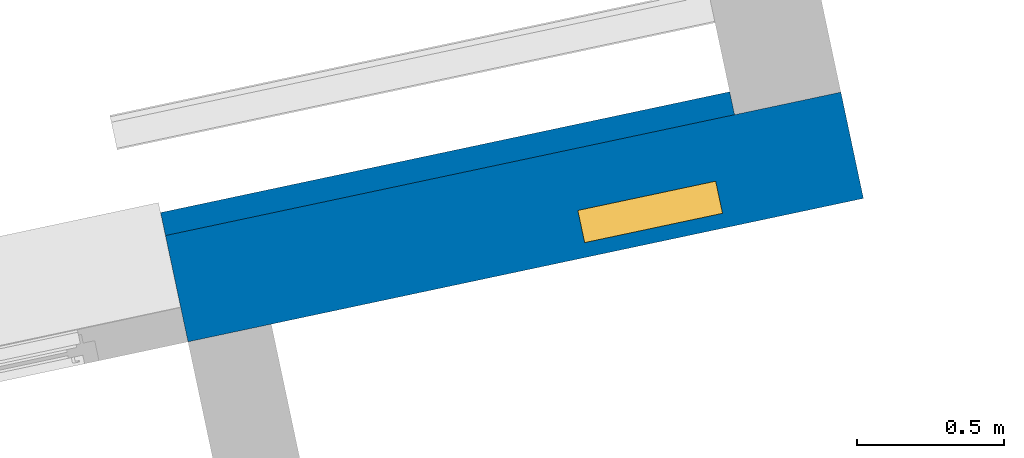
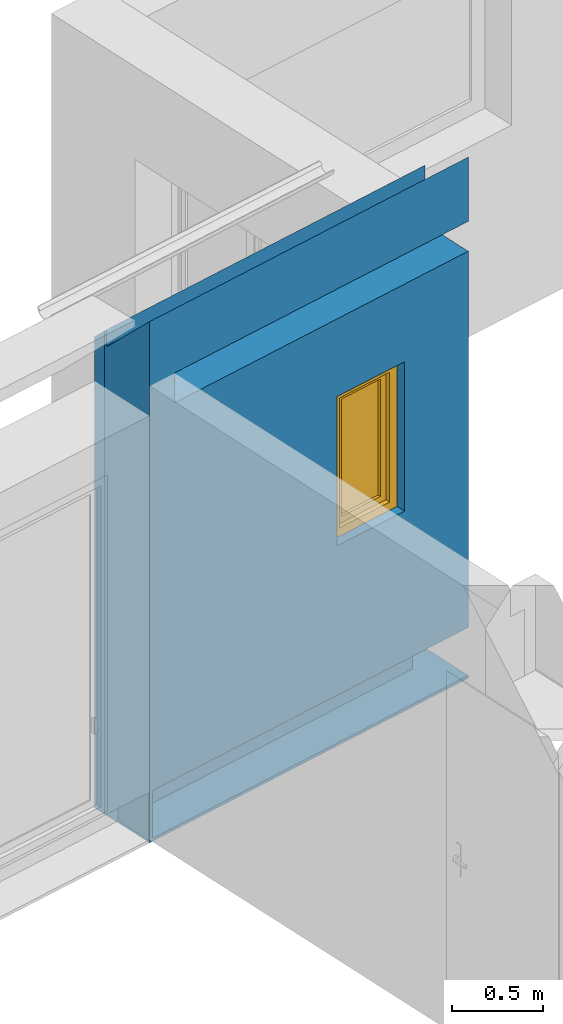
"""IFC2X3 building model written with IfcOpenShell, lengths in centimetres."""

from ifc_helpers import new_model, entity, si_unit, converted_unit, derived_unit, direction, frame, frame_2d, origin, origin_2d_with_axis, place, context, subcontext, project, spatial, polyline, rectangle, outline, extrude, clip, bounded_halfspace, faceted_brep, source, transform, mapped, material, material_list, layer, layer_set, layer_usage, type_object, type_shapes, element, fill, save


model = new_model("IFC2X3")

# Units and contexts
model_context = context("Model", 3, precision=0.001, world=origin(), true_north=direction((6.12303176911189e-17, 1.0)))
body_context = subcontext(model_context, "Body", "Model", "MODEL_VIEW")
ifc_project = project(units=[si_unit("LENGTHUNIT", "METRE", prefix="CENTI"), si_unit("AREAUNIT", "SQUARE_METRE"), si_unit("VOLUMEUNIT", "CUBIC_METRE"), converted_unit("PLANEANGLEUNIT", "DEGREE", entity("IfcRatioMeasure", 0.0174532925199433), si_unit("PLANEANGLEUNIT", "RADIAN"), dimensions=[0, 0, 0, 0, 0, 0, 0]), si_unit("MASSUNIT", "GRAM", prefix="KILO"), derived_unit("MASSDENSITYUNIT", [(si_unit("MASSUNIT", "GRAM", prefix="KILO"), 1), (si_unit("LENGTHUNIT", "METRE"), -3)]), derived_unit("IONCONCENTRATIONUNIT", [(si_unit("MASSUNIT", "GRAM", prefix="KILO"), 1), (si_unit("LENGTHUNIT", "METRE"), -3)]), derived_unit("MOMENTOFINERTIAUNIT", [(si_unit("LENGTHUNIT", "METRE"), 4)]), si_unit("TIMEUNIT", "SECOND"), si_unit("FREQUENCYUNIT", "HERTZ"), si_unit("THERMODYNAMICTEMPERATUREUNIT", "DEGREE_CELSIUS"), derived_unit("THERMALTRANSMITTANCEUNIT", [(si_unit("MASSUNIT", "GRAM", prefix="KILO"), 1), (si_unit("THERMODYNAMICTEMPERATUREUNIT", "KELVIN"), -1), (si_unit("TIMEUNIT", "SECOND"), -3)]), derived_unit("THERMALCONDUCTANCEUNIT", [(si_unit("MASSUNIT", "GRAM", prefix="KILO"), 1), (si_unit("THERMODYNAMICTEMPERATUREUNIT", "KELVIN"), -1), (si_unit("TIMEUNIT", "SECOND"), -3), (si_unit("LENGTHUNIT", "METRE"), 1)]), derived_unit("VOLUMETRICFLOWRATEUNIT", [(si_unit("LENGTHUNIT", "METRE"), 3), (si_unit("TIMEUNIT", "SECOND"), -1)]), derived_unit("MASSFLOWRATEUNIT", [(si_unit("MASSUNIT", "GRAM", prefix="KILO"), 1), (si_unit("TIMEUNIT", "SECOND"), -1)]), derived_unit("ROTATIONALFREQUENCYUNIT", [(si_unit("TIMEUNIT", "SECOND"), -1)]), si_unit("ELECTRICCURRENTUNIT", "AMPERE"), si_unit("ELECTRICVOLTAGEUNIT", "VOLT"), si_unit("POWERUNIT", "WATT"), si_unit("FORCEUNIT", "NEWTON", prefix="KILO"), si_unit("ILLUMINANCEUNIT", "LUX"), si_unit("LUMINOUSFLUXUNIT", "LUMEN"), si_unit("LUMINOUSINTENSITYUNIT", "CANDELA"), derived_unit("USERDEFINED", [(si_unit("MASSUNIT", "GRAM", prefix="KILO"), -1), (si_unit("LENGTHUNIT", "METRE"), -2), (si_unit("TIMEUNIT", "SECOND"), 3), (si_unit("LUMINOUSFLUXUNIT", "LUMEN"), 1)]), derived_unit("USERDEFINED", [(si_unit("MASSUNIT", "GRAM", prefix="KILO"), 1), (si_unit("TIMEUNIT", "SECOND"), -3), (si_unit("LENGTHUNIT", "METRE"), 3), (si_unit("ELECTRICCURRENTUNIT", "AMPERE"), -2)]), derived_unit("SOUNDPOWERUNIT", [(si_unit("MASSUNIT", "GRAM", prefix="KILO"), 1), (si_unit("TIMEUNIT", "SECOND"), -3), (si_unit("LENGTHUNIT", "METRE"), 2)]), derived_unit("SOUNDPRESSUREUNIT", [(si_unit("MASSUNIT", "GRAM", prefix="KILO"), 1), (si_unit("LENGTHUNIT", "METRE"), -1), (si_unit("TIMEUNIT", "SECOND"), -2)]), derived_unit("LINEARVELOCITYUNIT", [(si_unit("LENGTHUNIT", "METRE"), 1), (si_unit("TIMEUNIT", "SECOND"), -1)]), si_unit("PRESSUREUNIT", "PASCAL"), derived_unit("USERDEFINED", [(si_unit("MASSUNIT", "GRAM", prefix="KILO"), 1), (si_unit("LENGTHUNIT", "METRE"), -2), (si_unit("TIMEUNIT", "SECOND"), -2)]), derived_unit("LINEARFORCEUNIT", [(si_unit("MASSUNIT", "GRAM", prefix="KILO"), 1), (si_unit("TIMEUNIT", "SECOND"), -2)]), derived_unit("PLANARFORCEUNIT", [(si_unit("MASSUNIT", "GRAM", prefix="KILO"), 1), (si_unit("LENGTHUNIT", "METRE"), -1), (si_unit("TIMEUNIT", "SECOND"), -2)]), derived_unit("SPECIFICHEATCAPACITYUNIT", [(si_unit("THERMODYNAMICTEMPERATUREUNIT", "KELVIN"), -1), (si_unit("LENGTHUNIT", "METRE"), 2), (si_unit("TIMEUNIT", "SECOND"), -2)]), derived_unit("HEATINGVALUEUNIT", [(si_unit("LENGTHUNIT", "METRE"), 2), (si_unit("TIMEUNIT", "SECOND"), -2)]), derived_unit("VAPORPERMEABILITYUNIT", [(si_unit("LENGTHUNIT", "METRE"), -1), (si_unit("TIMEUNIT", "SECOND"), 1)]), derived_unit("DYNAMICVISCOSITYUNIT", [(si_unit("MASSUNIT", "GRAM", prefix="KILO"), 1), (si_unit("TIMEUNIT", "SECOND"), -1), (si_unit("LENGTHUNIT", "METRE"), -1)]), derived_unit("THERMALEXPANSIONCOEFFICIENTUNIT", [(si_unit("THERMODYNAMICTEMPERATUREUNIT", "KELVIN"), -1)]), derived_unit("MODULUSOFELASTICITYUNIT", [(si_unit("MASSUNIT", "GRAM", prefix="KILO"), 1), (si_unit("LENGTHUNIT", "METRE"), -1), (si_unit("TIMEUNIT", "SECOND"), -2)]), derived_unit("ISOTHERMALMOISTURECAPACITYUNIT", [(si_unit("LENGTHUNIT", "METRE"), 3), (si_unit("MASSUNIT", "GRAM", prefix="KILO"), -1)]), derived_unit("MOISTUREDIFFUSIVITYUNIT", [(si_unit("TIMEUNIT", "SECOND"), -1), (si_unit("LENGTHUNIT", "METRE"), 2)])], contexts=[model_context])

# Site, building, storey
site_placement = place(None, frame((14083.8920177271, -6853.25409548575, 6900.0), z_axis=(0.0, 0.0, 1.0), x_axis=(0.978188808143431, 0.207717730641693, 0.0)))
site = spatial("IfcSite", under=ifc_project, at=site_placement, Name="Surface", CompositionType="ELEMENT")
building_placement = place(site_placement, origin())
building = spatial("IfcBuilding", under=site, at=building_placement, CompositionType="ELEMENT")
storey_1_placement = place(building_placement, frame((0.0, 0.0, -17.0)))
storey_1 = spatial("IfcBuildingStorey", under=building, at=storey_1_placement, Name="Rez de chaussée (SD)", CompositionType="ELEMENT", Elevation=-16.9999999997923)

# Wall, openings
ifc_material_1 = material(Name="__ ENDUIT_Blanc")
ifc_layer_1 = layer(ifc_material_1, 2.0)
ifc_material_2 = material(Name="__ BETON_parpaings")
ifc_layer_2 = layer(ifc_material_2, 20.0)
ifc_material_3 = material(Name="__ ISOLANT (pat 1)")
ifc_layer_3 = layer(ifc_material_3, 13.0)
ifc_layer_4 = layer(ifc_material_1, 2.0)
ifc_layer_set_1 = layer_set([ifc_layer_1, ifc_layer_2, ifc_layer_3, ifc_layer_4], Name="Mur de base:*BRIQUE 37 (20 +INT 13+2 + EXT 2) (Iso+BA13)(enduit)")
ifc_layer_usage_1 = layer_usage(ifc_layer_set_1, "AXIS2", "NEGATIVE", 18.5)
wall_type_1 = type_object("IfcWallType", Name="Mur de base:*BRIQUE 37 (20 +INT 13+2 + EXT 2) (Iso+BA13)(enduit)", PredefinedType="STANDARD", material=ifc_layer_set_1)
wall_1_placement = place(storey_1_placement, frame((-7736.9551432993, 15432.4391445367, 0.0)))
wall_1 = element("IfcWallStandardCase", 1, at=wall_1_placement, inside=storey_1, type_object=wall_type_1, material=ifc_layer_usage_1, Name="Mur de base:*BRIQUE 37 (20 +INT 13+2 + EXT 2) (Iso+BA13)(enduit)", ObjectType="Mur de base:*BRIQUE 37 (20 +INT 13+2 + EXT 2) (Iso+BA13)(enduit)", context=body_context, shape_type="Clipping", body=[
    clip(clip(clip(extrude(rectangle(XDim=235.157995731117, YDim=37.0000000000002, at=frame_2d((117.578997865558, -8.66862137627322e-13), x_axis=(-1.0, 0.0))), origin(), (0.0, 0.0, 1.0), 348.999999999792), bounded_halfspace(frame((0.0, -18.500000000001, 349.0), z_axis=(0.0, 0.707106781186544, 0.707106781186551), x_axis=(-1.0, 0.0, 0.0)), False, frame((0.0, -18.500000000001, 349.0)), polyline([(0.0, 0.0), (235.157995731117, 0.0), (235.157995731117, 34.674098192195), (0.0, 34.674098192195), (0.0, 0.0)]))), bounded_halfspace(frame((235.157995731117, 16.8526181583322, 314.325901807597), z_axis=(0.0, 0.0, -1.0), x_axis=(-1.0, 0.0, 0.0)), True, frame((235.157995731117, 16.8526181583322, 314.325901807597)), polyline([(0.0, 0.0), (-235.157995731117, 0.0), (-235.157995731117, -0.678519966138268), (0.0, -0.678519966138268), (0.0, 0.0)]))), bounded_halfspace(frame((235.157995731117, 16.8526181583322, 325.215058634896), z_axis=(0.0, 0.707106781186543, 0.707106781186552), x_axis=(1.0, 0.0, 0.0)), False, frame((235.157995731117, 16.8526181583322, 325.215058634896)), polyline([(0.0, 0.0), (0.0, 1.64738184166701), (-37.0, 1.64738184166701), (-235.157995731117, 1.64738184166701), (-235.157995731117, 0.0), (0.0, 0.0)]))),
])
opening_1_placement = place(storey_1_placement, frame((-7736.9551432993, 15432.4391445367, 0.0)))
element("IfcOpeningElement", 2, at=opening_1_placement, cuts=wall_1, Name="Mur de base:*BRIQUE 37 (20 +INT 13+2 + EXT 2) (Iso+BA13)(enduit):1", ObjectType="Opening", context=body_context, shape_type="SweptSolid", body=[
    extrude(outline(polyline([(-65.3859985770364, -4.33333333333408), (149.271997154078, -4.33333333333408), (149.271997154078, 20.6666666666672), (-83.8859985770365, 20.6666666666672), (-83.8859985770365, -16.3333333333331), (-65.3859985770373, -16.3333333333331), (-65.3859985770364, -4.33333333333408)])), frame((151.27199715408, 2.16666666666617, 2.0), z_axis=(0.0, 0.0, 1.0), x_axis=(-1.0, 0.0, 0.0)), (0.0, 0.0, 1.0), 32.0),
])
opening_2_placement = place(storey_1_placement, frame((-7736.9551432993, 15432.4391445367, 0.0)))
element("IfcOpeningElement", 3, at=opening_2_placement, cuts=wall_1, Name="Mur de base:*BRIQUE 37 (20 +INT 13+2 + EXT 2) (Iso+BA13)(enduit):2", ObjectType="Opening", context=body_context, shape_type="SweptSolid", body=[
    extrude(outline(polyline([(-59.8859985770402, -2.66666666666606), (138.271997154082, -2.66666666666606), (138.271997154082, 19.8333333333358), (-78.3859985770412, 19.8333333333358), (-78.3859985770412, -17.1666666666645), (-59.8859985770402, -17.1666666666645), (-59.8859985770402, -2.66666666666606)])), frame((156.771997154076, 1.33333333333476, 286.0), z_axis=(0.0, 0.0, 1.0), x_axis=(-1.0, 0.0, 0.0)), (0.0, 0.0, 1.0), 20.0),
])
opening_3_placement = place(wall_1_placement, frame((-261.0, -46.0, 27.7207768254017)))
element("IfcOpeningElement", 4, at=opening_3_placement, cuts=wall_1, Name="Mur de base:*BRIQUE 37 (20 +INT 13+2 + EXT 2) (Iso+BA13)(enduit)", ObjectType="Opening", context=body_context, shape_type="Brep", body=[
    faceted_brep([(225.0, 35.4999999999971, 8.2792231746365), (225.0, 35.4999999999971, 6.7792231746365), (225.0, 100.0, 0.0), (225.0, 100.0, 228.279223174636), (225.0, 37.4999999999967, 228.279223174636), (225.0, 37.4999999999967, 8.2792231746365), (5.0, 0.0, 8.2792231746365), (5.0, 0.0, 228.279223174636), (5.0, 27.5000000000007, 228.279223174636), (5.0, 27.5000000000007, 8.2792231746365), (225.0, 0.0, 8.2792231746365), (0.0, 27.5000000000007, 8.2792231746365), (0.0, 34.5000000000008, 8.2792231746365), (4.0, 34.5000000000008, 8.2792231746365), (4.0, 37.4999999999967, 8.2792231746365), (5.0, 37.4999999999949, 8.27922317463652), (5.0, 35.4999999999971, 8.2792231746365), (226.0, 37.4999999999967, 8.2792231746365), (226.0, 34.5000000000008, 8.2792231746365), (230.0, 34.5000000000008, 8.2792231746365), (230.0, 27.5000000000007, 8.2792231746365), (225.0, 27.5000000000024, 8.2792231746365), (225.0, 0.0, 228.279223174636), (225.0, 27.5000000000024, 228.279223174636), (5.0, 100.0, 0.0), (5.0, 100.0, 228.279223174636), (5.0, 35.4999999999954, 6.7792231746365), (230.0, 34.5000000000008, 233.279223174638), (230.0, 27.5000000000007, 233.279223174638), (226.0, 34.5000000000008, 229.279223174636), (4.0, 34.5000000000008, 229.279223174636), (0.0, 34.5000000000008, 233.279223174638), (226.0, 37.4999999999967, 229.279223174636), (5.0, 37.4999999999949, 228.279223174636), (4.0, 37.4999999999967, 229.279223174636), (0.0, 27.5000000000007, 233.279223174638)], [[[0, 1, 2, 3, 4, 5]], [[6, 7, 8, 9]], [[10, 6, 9, 11, 12, 13, 14, 15, 16, 0, 5, 17, 18, 19, 20, 21]], [[10, 22, 7, 6]], [[7, 22, 23, 8]], [[3, 2, 24, 25]], [[2, 1, 26, 24]], [[1, 0, 16, 26]], [[20, 19, 27, 28]], [[19, 18, 29, 30, 13, 12, 31, 27]], [[18, 17, 32, 29]], [[17, 5, 4, 33, 15, 14, 34, 32]], [[21, 20, 28, 35, 11, 9, 8, 23]], [[28, 27, 31, 35]], [[30, 29, 32, 34]], [[31, 12, 11, 35]], [[13, 30, 34, 14]], [[3, 25, 33, 4]], [[25, 24, 26, 16, 15, 33]], [[22, 10, 21, 23]]]),
])
opening_4_placement = place(wall_1_placement, frame((138.157995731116, -18.4999999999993, 134.0)))
opening_4 = element("IfcOpeningElement", 5, at=opening_4_placement, cuts=wall_1, Name="OPTIMAL Top Turn Single Window-1:OPTIMAL Top Turn Single Window 50x100:1", ObjectType="Opening", context=body_context, shape_type="SweptSolid", body=[
    extrude(rectangle(XDim=100.0, YDim=50.0, at=frame_2d((50.0, 25.0), x_axis=(1.0, 0.0))), frame((0.0, 0.0, 0.0), z_axis=(0.0, 1.0, 0.0), x_axis=(0.0, 0.0, 1.0)), (0.0, 0.0, 1.0), 37.0),
])

# Storey
storey_2_placement = place(building_placement, frame((0.0, 0.0, 17.0)))
storey_2 = spatial("IfcBuildingStorey", under=building, at=storey_2_placement, Name="Rez de chaussée", CompositionType="ELEMENT", Elevation=17.0000000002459)

# Window
ifc_material_4 = material(Name="Glass")
ifc_material_5 = material(Name="White NCS S0502-Y")
ifc_material_list = material_list([ifc_material_4, ifc_material_5])
window_style = type_object("IfcWindowStyle", Name="OPTIMAL Top Turn Single Window-1:OPTIMAL Top Turn Single Window 50x100", ConstructionType="NOTDEFINED", OperationType="NOTDEFINED", ParameterTakesPrecedence=False, Sizeable=False, material=ifc_material_list)
shared_shape = source(origin(), body_context, "Body", "SweptSolid", [
    extrude(rectangle(XDim=0.399999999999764, YDim=28.6000000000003, at=frame_2d((-8.46545056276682e-16, 0.0), x_axis=(1.0, 0.0))), frame((25.0, 10.1000000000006, 10.7000000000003), z_axis=(0.0, 0.0, 1.0), x_axis=(0.0, 1.0, 0.0)), (0.0, 0.0, 1.0), 78.6000000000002),
    extrude(rectangle(XDim=0.399999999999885, YDim=28.6000000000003, at=origin_2d_with_axis()), frame((25.0, 14.1000000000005, 10.7000000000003), z_axis=(0.0, 0.0, 1.0), x_axis=(0.0, 1.0, 0.0)), (0.0, 0.0, 1.0), 78.6000000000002),
    extrude(outline(polyline([(-43.5000000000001, -18.5000000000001), (43.5000000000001, -18.5000000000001), (43.5000000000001, 18.5000000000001), (-43.5000000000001, 18.5000000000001), (-43.5000000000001, -18.5000000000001)]), holes=[polyline([(39.3000000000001, -14.3000000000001), (-39.3000000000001, -14.3000000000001), (-39.3000000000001, 14.3000000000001), (39.3000000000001, 14.3000000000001), (39.3000000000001, -14.3000000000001)])]), frame((25.0, 8.0, 50.0), z_axis=(0.0, 1.0, 0.0), x_axis=(0.0, 0.0, 1.0)), (0.0, 0.0, 1.0), 8.20000000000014),
    extrude(outline(polyline([(-49.0, -24.0), (49.0, -24.0), (49.0, 24.0), (-49.0, 24.0), (-49.0, -24.0)]), holes=[polyline([(43.5000000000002, -18.5), (-43.5000000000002, -18.5000000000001), (-43.5000000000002, 18.5000000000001), (43.5000000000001, 18.5000000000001), (43.5000000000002, -18.5)])]), frame((25.0, 5.0, 50.0), z_axis=(0.0, 1.0, 0.0), x_axis=(0.0, 0.0, 1.0)), (0.0, 0.0, 1.0), 11.2000000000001),
])
type_shapes(window_style, [shared_shape])
window_placement = place(opening_4_placement, origin())
window = element("IfcWindow", 6, at=window_placement, inside=storey_2, type_object=window_style, material=ifc_material_list, Name="OPTIMAL Top Turn Single Window-1:OPTIMAL Top Turn Single Window 50x100", ObjectType="OPTIMAL Top Turn Single Window-1:OPTIMAL Top Turn Single Window 50x100", OverallHeight=100.0, OverallWidth=49.9999999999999, context=body_context, shape_type="MappedRepresentation", body=[
    mapped(shared_shape, transform((0.0, 0.0, 0.0), scale=1.0)),
])

fill(opening_4, window)

# Wall, openings
ifc_material_6 = material(Name="__ PIERRE______________________TEST")
ifc_layer_5 = layer(ifc_material_6, 8.0)
ifc_layer_set_2 = layer_set([ifc_layer_5], Name="Mur de base:*Mur (8) Parement pierre")
ifc_layer_usage_2 = layer_usage(ifc_layer_set_2, "AXIS2", "NEGATIVE", 4.0)
wall_type_2 = type_object("IfcWallType", Name="Mur de base:*Mur (8) Parement pierre", PredefinedType="STANDARD", material=ifc_layer_set_2)
wall_2_placement = place(storey_1_placement, frame((-7736.9551432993, 15454.9391445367, 0.0)))
wall_2 = element("IfcWallStandardCase", 7, at=wall_2_placement, inside=storey_1, type_object=wall_type_2, material=ifc_layer_usage_2, Name="Mur de base:*Mur (8) Parement pierre", ObjectType="Mur de base:*Mur (8) Parement pierre", context=body_context, shape_type="Clipping", body=[
    clip(extrude(rectangle(XDim=198.157995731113, YDim=8.00000000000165, at=frame_2d((99.0789978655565, 0.0), x_axis=(-1.0, 0.0))), origin(), (0.0, 0.0, 1.0), 323.567676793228), bounded_halfspace(frame((0.0, -4.0, 323.567676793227), z_axis=(0.0, 0.707106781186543, 0.707106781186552), x_axis=(1.0, 0.0, 0.0)), False, frame((0.0, -4.0, 323.567676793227)), polyline([(0.0, 0.0), (198.157995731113, 0.0), (198.157995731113, 8.0), (0.0, 8.0), (0.0, 0.0)]))),
])
opening_5_placement = place(wall_2_placement, origin())
element("IfcOpeningElement", 8, at=opening_5_placement, cuts=wall_2, Name="Mur de base:*Mur (8) Parement pierre", ObjectType="Opening", context=body_context, shape_type="SweptSolid", body=[
    extrude(rectangle(XDim=100.0, YDim=49.9999999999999, at=frame_2d((2.8421709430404e-14, 4.33431068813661e-13), x_axis=(1.0, 0.0))), frame((163.157995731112, -193.399999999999, 184.0), z_axis=(0.0, 1.0, 0.0), x_axis=(0.0, 0.0, 1.0)), (0.0, 0.0, 1.0), 304.8),
])
opening_6_placement = place(wall_2_placement, frame((-261.0, -68.5, 27.7207768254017)))
element("IfcOpeningElement", 9, at=opening_6_placement, cuts=wall_2, Name="Mur de base:*Mur (8) Parement pierre", ObjectType="Opening", context=body_context, shape_type="Brep", body=[
    faceted_brep([(225.0, 35.4999999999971, 8.2792231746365), (225.0, 35.4999999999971, 6.7792231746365), (225.0, 100.0, 0.0), (225.0, 100.0, 228.279223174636), (225.0, 37.4999999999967, 228.279223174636), (225.0, 37.4999999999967, 8.2792231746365), (5.0, 0.0, 8.2792231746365), (5.0, 0.0, 228.279223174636), (5.0, 27.5000000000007, 228.279223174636), (5.0, 27.5000000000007, 8.2792231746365), (225.0, 0.0, 8.2792231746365), (0.0, 27.5000000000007, 8.2792231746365), (0.0, 34.5000000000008, 8.2792231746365), (4.0, 34.5000000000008, 8.2792231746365), (4.0, 37.4999999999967, 8.2792231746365), (5.0, 37.4999999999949, 8.27922317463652), (5.0, 35.4999999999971, 8.2792231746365), (226.0, 37.4999999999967, 8.2792231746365), (226.0, 34.5000000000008, 8.2792231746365), (230.0, 34.5000000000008, 8.2792231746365), (230.0, 27.5000000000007, 8.2792231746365), (225.0, 27.5000000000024, 8.2792231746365), (225.0, 0.0, 228.279223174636), (225.0, 27.5000000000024, 228.279223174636), (5.0, 100.0, 0.0), (5.0, 100.0, 228.279223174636), (5.0, 35.4999999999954, 6.7792231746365), (230.0, 34.5000000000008, 233.279223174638), (230.0, 27.5000000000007, 233.279223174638), (226.0, 34.5000000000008, 229.279223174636), (4.0, 34.5000000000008, 229.279223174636), (0.0, 34.5000000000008, 233.279223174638), (226.0, 37.4999999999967, 229.279223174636), (5.0, 37.4999999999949, 228.279223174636), (4.0, 37.4999999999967, 229.279223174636), (0.0, 27.5000000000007, 233.279223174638)], [[[0, 1, 2, 3, 4, 5]], [[6, 7, 8, 9]], [[10, 6, 9, 11, 12, 13, 14, 15, 16, 0, 5, 17, 18, 19, 20, 21]], [[10, 22, 7, 6]], [[7, 22, 23, 8]], [[3, 2, 24, 25]], [[2, 1, 26, 24]], [[1, 0, 16, 26]], [[20, 19, 27, 28]], [[19, 18, 29, 30, 13, 12, 31, 27]], [[18, 17, 32, 29]], [[17, 5, 4, 33, 15, 14, 34, 32]], [[21, 20, 28, 35, 11, 9, 8, 23]], [[28, 27, 31, 35]], [[30, 29, 32, 34]], [[31, 12, 11, 35]], [[13, 30, 34, 14]], [[3, 25, 33, 4]], [[25, 24, 26, 16, 15, 33]], [[22, 10, 21, 23]]]),
])

save(model, "model.ifc")
